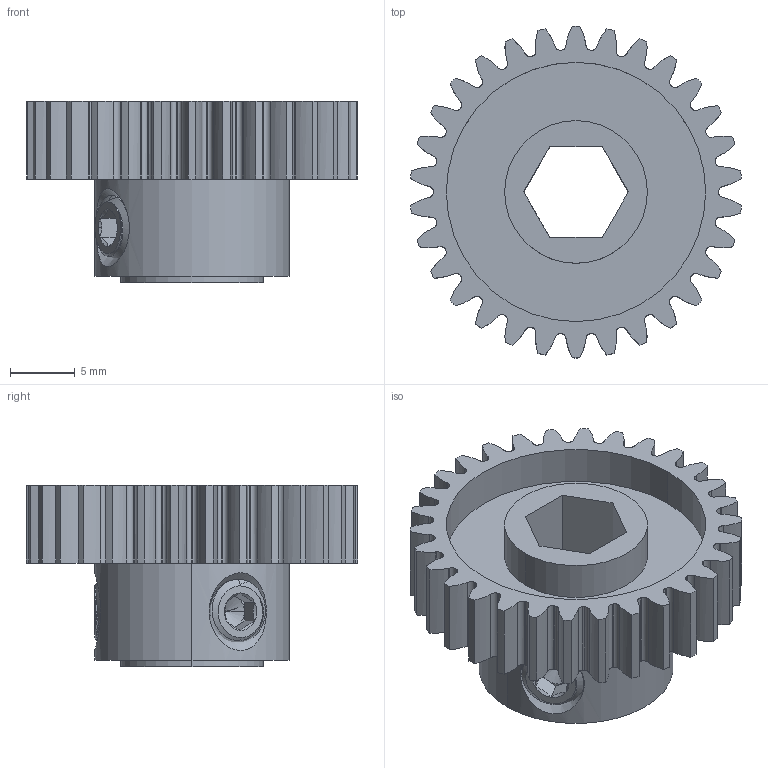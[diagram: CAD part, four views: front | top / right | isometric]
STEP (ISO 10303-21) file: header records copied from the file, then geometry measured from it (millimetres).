
FILE_DESCRIPTION (( 'STEP AP203' ), '1' );
FILE_NAME ('2303-4008-0030 assembly.STEP', '2024-07-22T21:59:51', ( '' ), ( '' ), 'SwSTEP 2.0', 'SolidWorks 2016', '' );
FILE_SCHEMA (( 'CONFIG_CONTROL_DESIGN' ));
Length unit declared in the file: millimetre
Products named in the file (3): 2806-0005-0004_91390A117; 2303-4008-0030; 2303-4008-0030 assembly
Assembly tree (3 placements, depth 2):
  2303-4008-0030 assembly
    2303-4008-0030
    2806-0005-0004_91390A117  x2
Bounding box: 25.51 x 25.6 x 14 mm (x, y, z)
Volume: 2772.2 mm3; surface area: 3035.3 mm2
Topology: 3 solids, 3 shells, 401 faces, 1127 edges, 732 vertices
Faces by surface type: bspline 136, cylinder 129, plane 100, cone 36
Entity records: 21177 total; most frequent: CARTESIAN_POINT 12561, ORIENTED_EDGE 2058, DIRECTION 1277, EDGE_CURVE 1029, VERTEX_POINT 679, VECTOR 465, LINE 465, AXIS2_PLACEMENT_3D 406
